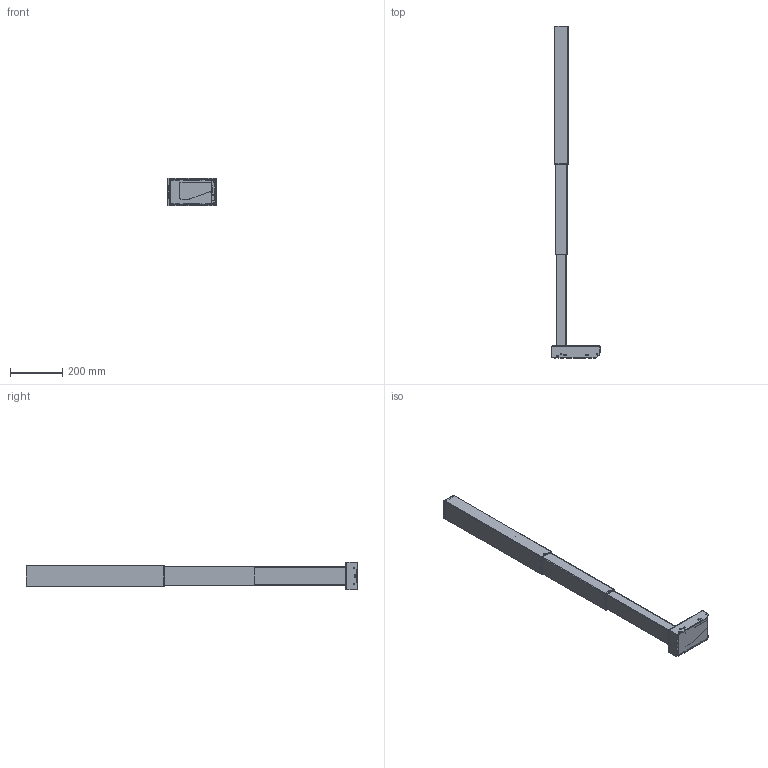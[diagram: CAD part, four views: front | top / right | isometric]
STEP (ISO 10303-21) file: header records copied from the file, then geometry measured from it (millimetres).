
FILE_DESCRIPTION (( 'STEP AP203' ), '1' );
FILE_NAME ('3D_TFL33S.STEP', '2024-04-03T10:04:00', ( '' ), ( '' ), 'SwSTEP 2.0', 'SolidWorks 2015', '' );
FILE_SCHEMA (( 'CONFIG_CONTROL_DESIGN' ));
Products named in the file (1): 3D_TFL33S
Bounding box: 183 x 1265.5 x 105 mm (x, y, z)
Volume: 795212.5 mm3; surface area: 899222.6 mm2
Topology: 16 solids, 16 shells, 3784 faces, 9381 edges, 5329 vertices
Faces by surface type: cylinder 1653, plane 947, torus 484, bspline 384, sphere 255, cone 61
Entity records: 129378 total; most frequent: CARTESIAN_POINT 44337, ORIENTED_EDGE 18136, DIRECTION 17826, EDGE_CURVE 9068, AXIS2_PLACEMENT_3D 6781, VERTEX_POINT 5329, VECTOR 4264, LINE 4264
